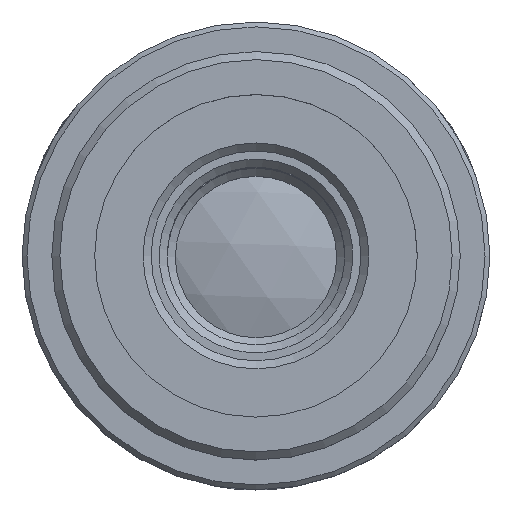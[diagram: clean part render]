
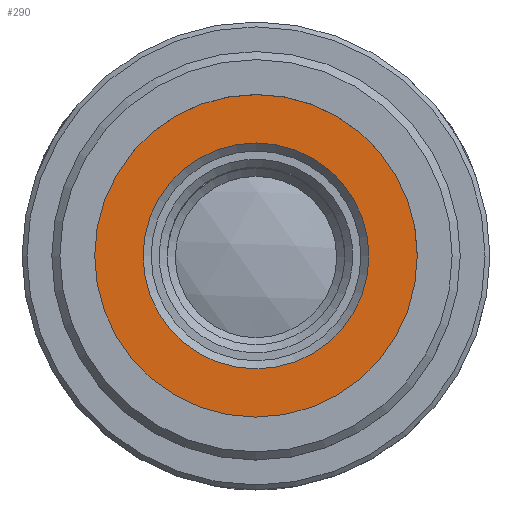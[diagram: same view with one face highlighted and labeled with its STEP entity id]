
A CAD part, top view. The second image highlights one B-rep face of the part: STEP entity #290.
In plain terms, the highlighted planar face has unit normal (0, 0, 1).
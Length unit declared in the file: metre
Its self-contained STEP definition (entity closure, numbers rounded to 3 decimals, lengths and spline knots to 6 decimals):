
#290=ADVANCED_FACE('0:288398',(#673,#674),#675,.F.);
#673=FACE_BOUND('',#1187,.T.);
#674=FACE_OUTER_BOUND('',#1188,.T.);
#675=PLANE('',#1189);
#1187=EDGE_LOOP('',(#1933));
#1188=EDGE_LOOP('',(#1934));
#1189=AXIS2_PLACEMENT_3D('',#1935,#1936,#1937);
#1933=ORIENTED_EDGE('',*,*,#2651,.T.);
#1934=ORIENTED_EDGE('',*,*,#2649,.F.);
#1935=CARTESIAN_POINT('',(-0.005493,0.009136,0.0559));
#1936=DIRECTION('',(0.,0.,-1.0));
#1937=DIRECTION('',(-0.996,0.087,0.));
#2649=EDGE_CURVE('0:288914',#3110,#3110,#3111,.T.);
#2651=EDGE_CURVE('0:288944',#3113,#3113,#3114,.T.);
#3110=VERTEX_POINT('',#3878);
#3111=CIRCLE('',#3879,0.01);
#3113=VERTEX_POINT('',#3881);
#3114=CIRCLE('',#3882,0.007);
#3878=CARTESIAN_POINT('',(-0.015501,-0.000856,0.0559));
#3879=AXIS2_PLACEMENT_3D('',#4519,#4520,#4521);
#3881=CARTESIAN_POINT('',(-0.012501,-0.000859,0.0559));
#3882=AXIS2_PLACEMENT_3D('',#4522,#4523,#4524);
#4519=CARTESIAN_POINT('',(-0.005501,-0.000864,0.0559));
#4520=DIRECTION('',(0.,0.,-1.0));
#4521=DIRECTION('',(-1.,0.001,0.));
#4522=CARTESIAN_POINT('',(-0.005501,-0.000864,0.0559));
#4523=DIRECTION('',(0.,0.,-1.0));
#4524=DIRECTION('',(-1.,0.001,0.));
